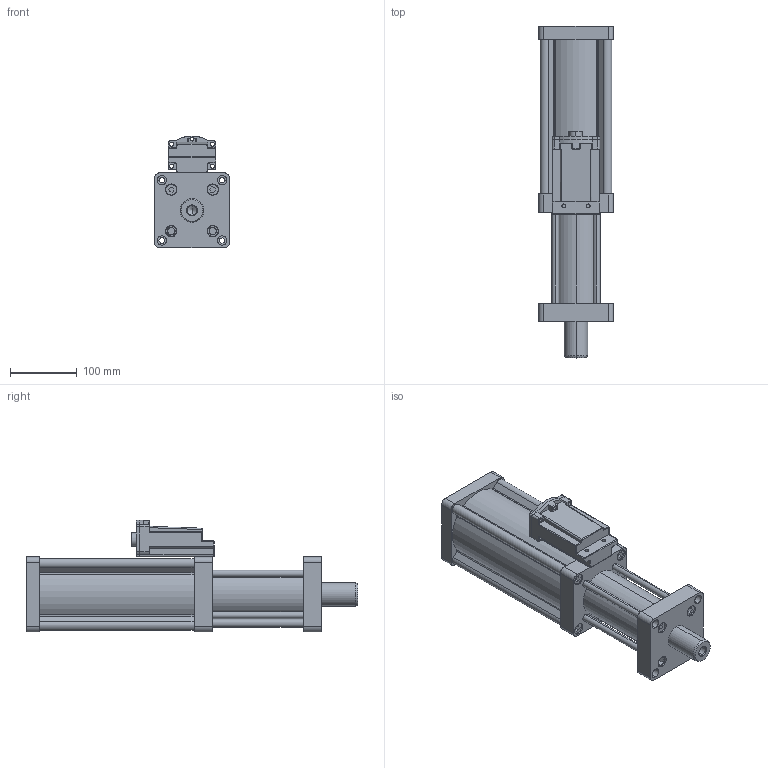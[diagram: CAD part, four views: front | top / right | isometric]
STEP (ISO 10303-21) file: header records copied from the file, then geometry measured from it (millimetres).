
FILE_DESCRIPTION (( 'STEP AP203' ), '1' );
FILE_NAME ('MPTC-63-20-3T.STEP', '2016-03-15T08:01:57', ( 'WIN' ), ( '' ), 'SwSTEP 2.0', 'SolidWorks 2014', '' );
FILE_SCHEMA (( 'CONFIG_CONTROL_DESIGN' ));
Length unit declared in the file: millimetre
Products named in the file (1): MPTC-63-20-3T
Bounding box: 112 x 496 x 166.97 mm (x, y, z)
Surface area: 477898.5 mm2 (no closed solid volume)
Topology: 0 solids, 6 shells, 463 faces, 1154 edges, 740 vertices
Faces by surface type: cylinder 229, plane 195, cone 24, sphere 8, torus 5, bspline 2
Entity records: 14302 total; most frequent: CARTESIAN_POINT 2805, DIRECTION 2499, ORIENTED_EDGE 2253, EDGE_CURVE 1138, AXIS2_PLACEMENT_3D 926, VERTEX_POINT 740, LINE 647, VECTOR 647
